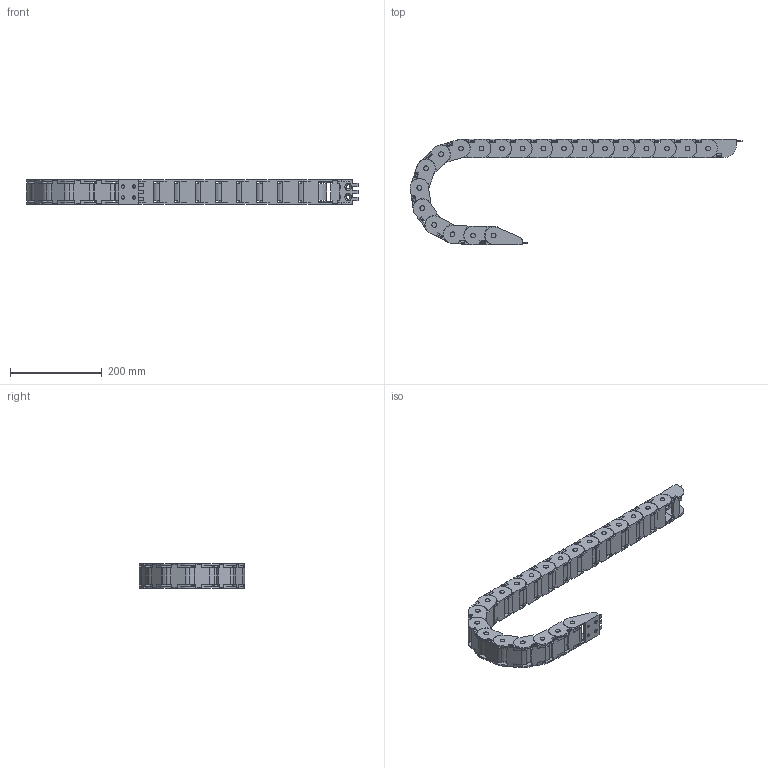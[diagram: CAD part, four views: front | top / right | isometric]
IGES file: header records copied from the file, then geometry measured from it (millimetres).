
Global section: file name: No Iges File Name specified; native system: Autodesk Inventor 2012; preprocessor: AutoDesk Inventor Iges Exporter R2012; author: cho; date: 20151023.003037; units: millimetre
Bounding box: 725.15 x 230.02 x 54.8 mm (x, y, z)
Volume: 756395.7 mm3; surface area: 481246.7 mm2
Topology: 42 solids, 42 shells, 2038 faces, 5684 edges, 3770 vertices
Faces by surface type: plane 1414, cylinder 396, revolution 228
Full cylindrical faces by diameter (mm): 10 x40, 10.5 x2
